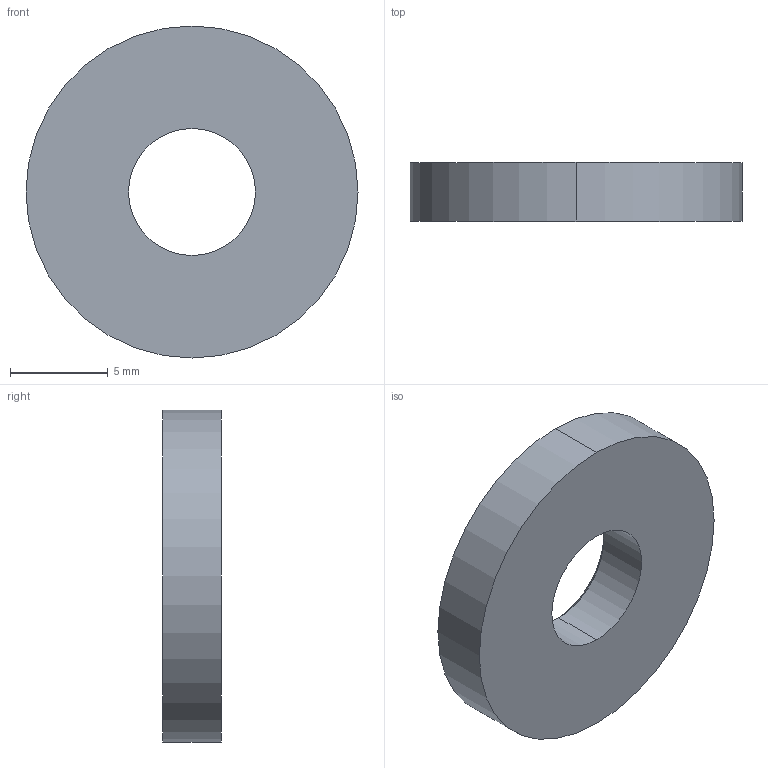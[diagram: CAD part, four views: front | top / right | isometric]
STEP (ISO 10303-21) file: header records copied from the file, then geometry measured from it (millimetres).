
FILE_DESCRIPTION (( 'STEP AP214' ), '1' );
FILE_NAME ('SM71-M6-20kN U-Scheibe.STEP', '2023-09-26T09:44:37', ( '' ), ( '' ), 'SwSTEP 2.0', 'SolidWorks 2019', '' );
FILE_SCHEMA (( 'AUTOMOTIVE_DESIGN' ));
Length unit declared in the file: millimetre
Products named in the file (2): SM71-M6-20kN U-Scheibe
Bounding box: 17 x 3 x 17 mm (x, y, z)
Volume: 580.7 mm3; surface area: 606.2 mm2
Topology: 1 solids, 1 shells, 8 faces, 16 edges, 10 vertices
Faces by surface type: cylinder 4, cone 2, plane 2
Entity records: 267 total; most frequent: DIRECTION 46, CARTESIAN_POINT 36, ORIENTED_EDGE 32, AXIS2_PLACEMENT_3D 20, EDGE_CURVE 16, VERTEX_POINT 10, EDGE_LOOP 10, CIRCLE 10
